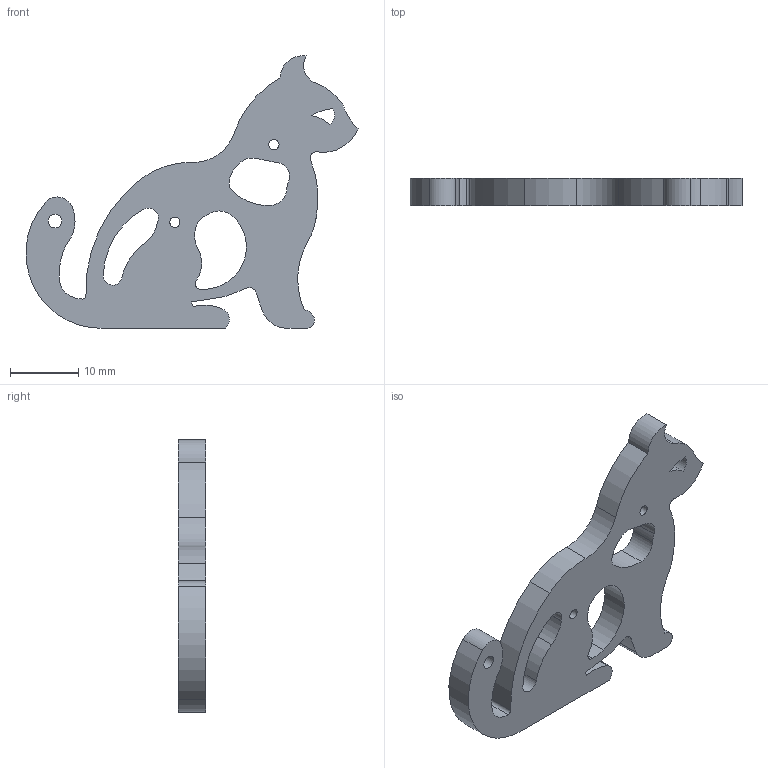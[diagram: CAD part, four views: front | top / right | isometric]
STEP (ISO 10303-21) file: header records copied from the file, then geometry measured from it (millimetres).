
FILE_DESCRIPTION(/* description */ (''),/* implementation_level */ '2;1');
FILE_NAME(/* name */ 'C:\Users\admin\Desktop\inventor\gatto\gatto_2D.stp',/* time_stamp */ '2023-08-23T17:55:26+02:00',/* author */ ('admin'),/* organization */ (''),/* preprocessor_version */ 'ST-DEVELOPER v18.1',/* originating_system */ 'Autodesk Inventor 2022',/* authorisation */ '');
FILE_SCHEMA (('AUTOMOTIVE_DESIGN { 1 0 10303 214 3 1 1 }'));
Length unit declared in the file: millimetre
Products named in the file (1): gatto2
Bounding box: 48.51 x 4 x 39.81 mm (x, y, z)
Volume: 3190.1 mm3; surface area: 2823.9 mm2
Topology: 1 solids, 1 shells, 67 faces, 195 edges, 130 vertices
Faces by surface type: cylinder 62, plane 5
Full cylindrical faces by diameter (mm): 1.5 x2, 2 x1
Entity records: 2360 total; most frequent: DIRECTION 455, CARTESIAN_POINT 393, ORIENTED_EDGE 390, EDGE_CURVE 195, AXIS2_PLACEMENT_3D 192, VERTEX_POINT 130, CIRCLE 124, EDGE_LOOP 81
